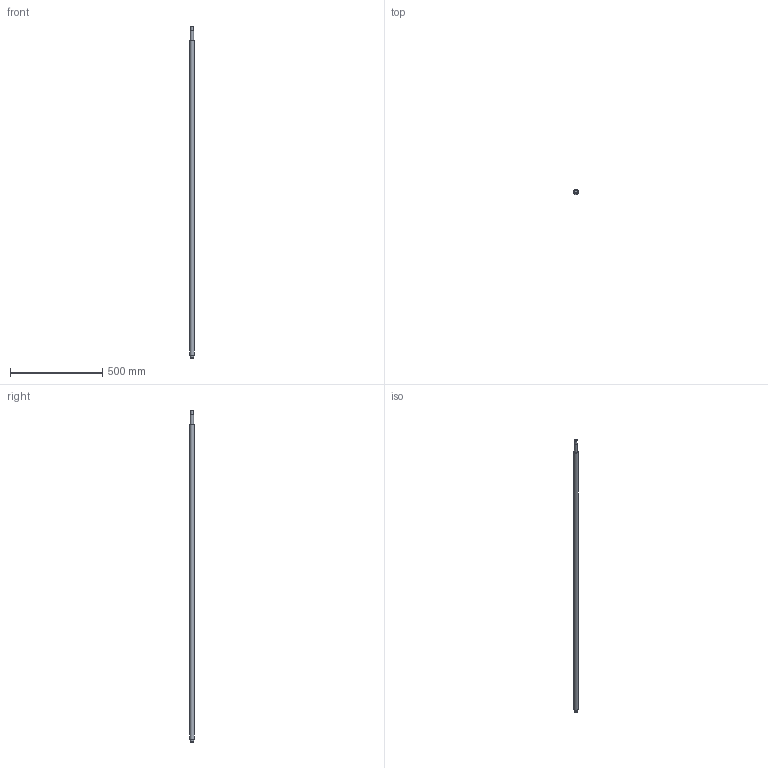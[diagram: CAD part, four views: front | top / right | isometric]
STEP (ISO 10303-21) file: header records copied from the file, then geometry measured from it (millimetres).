
FILE_DESCRIPTION(/* description */ (''),/* implementation_level */ '2;1');
FILE_NAME(/* name */ 'C:\Users\David Dillkötter\ownCloud\Kamp und Kötter\Artikel\_CAD-Dateien\CAD-Dateien-Shop\CAD-Dateien\Kugelumlaufspindel\2510\KUS2510x1800.stp',/* time_stamp */ '2020-09-03T09:45:57+02:00',/* author */ ('David Dillkötter'),/* organization */ (''),/* preprocessor_version */ 'ST-DEVELOPER v18.1',/* originating_system */ 'Autodesk Inventor 2021',/* authorisation */ '');
FILE_SCHEMA (('AUTOMOTIVE_DESIGN { 1 0 10303 214 3 1 1 }'));
Length unit declared in the file: millimetre
Products named in the file (1): KUS2510_Gewindespindel
Bounding box: 25 x 25 x 1800 mm (x, y, z)
Volume: 858110 mm3; surface area: 139908.1 mm2
Topology: 1 solids, 1 shells, 17 faces, 30 edges, 20 vertices
Faces by surface type: plane 7, cylinder 6, cone 4
Full cylindrical faces by diameter (mm): 15 x1, 16.2 x1, 17 x3, 25 x1
Entity records: 465 total; most frequent: DIRECTION 86, CARTESIAN_POINT 68, ORIENTED_EDGE 60, AXIS2_PLACEMENT_3D 38, EDGE_CURVE 30, EDGE_LOOP 22, CIRCLE 20, VERTEX_POINT 20
